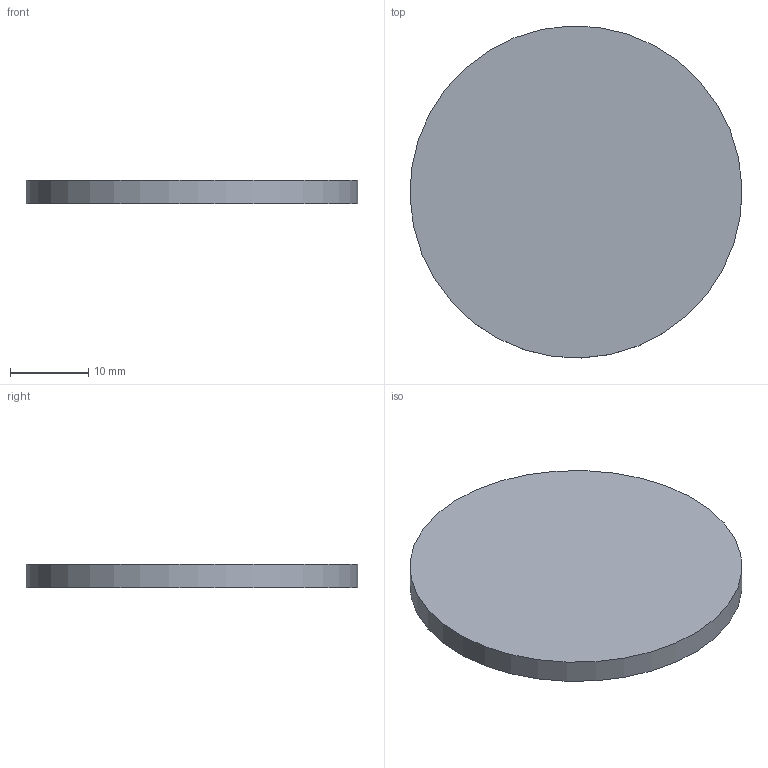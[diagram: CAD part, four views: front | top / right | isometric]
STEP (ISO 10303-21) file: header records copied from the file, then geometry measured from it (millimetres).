
FILE_DESCRIPTION(/* description */ (''),/* implementation_level */ '2;1');
FILE_NAME(/* name */ 'Pos100-Plaatwerk D= 3-S235JRG2-4st',/* time_stamp */ '2024-08-06T11:42:42+02:00',/* author */ (''),/* organization */ (''),/* preprocessor_version */ 'ST-DEVELOPER v16.5',/* originating_system */ 'HiCAD 2024 2901.2 Build 361',/* authorisation */ '');
FILE_SCHEMA (('AUTOMOTIVE_DESIGN { 1 0 10303 214 1 1 1 1 }'));
Length unit declared in the file: millimetre
Products named in the file (1): Pos100-Plaatwerk D= 3-S235JRG2-4st
Bounding box: 42.38 x 42.38 x 3 mm (x, y, z)
Volume: 4235.9 mm3; surface area: 3223.5 mm2
Topology: 1 solids, 1 shells, 3 faces, 3 edges, 2 vertices
Faces by surface type: plane 2, cylinder 1
Full cylindrical faces by diameter (mm): 42.4 x1
Entity records: 92 total; most frequent: DIRECTION 10, CARTESIAN_POINT 7, PRESENTATION_STYLE_ASSIGNMENT 5, COLOUR_RGB 5, AXIS2_PLACEMENT_3D 5, DRAUGHTING_PRE_DEFINED_CURVE_FONT 4, CURVE_STYLE 4, OVER_RIDING_STYLED_ITEM 4
